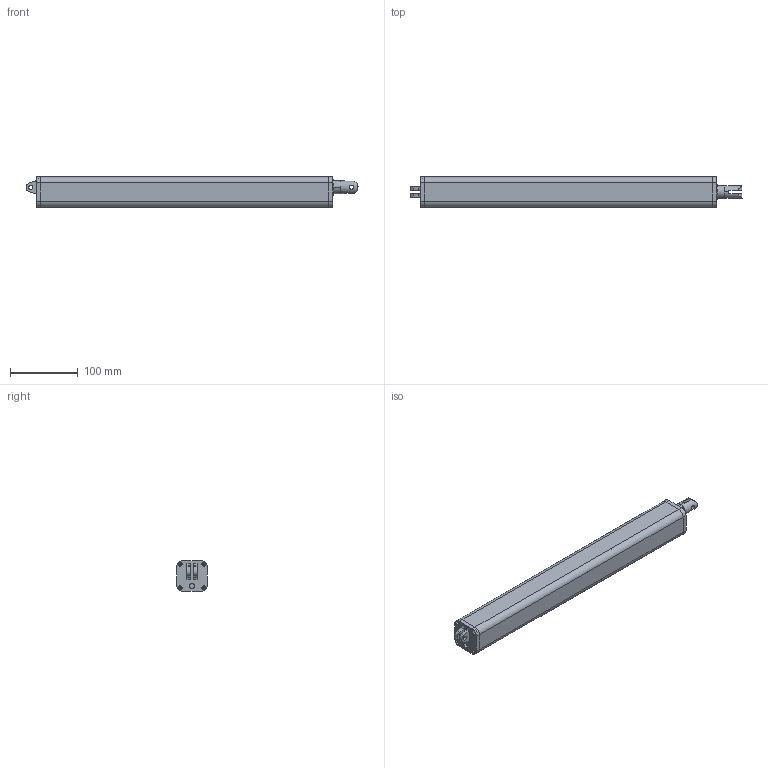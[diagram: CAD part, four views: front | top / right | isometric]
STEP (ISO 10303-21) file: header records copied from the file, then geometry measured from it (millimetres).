
FILE_DESCRIPTION((''),'2;1');
FILE_NAME('LAS4-S100_ASM','2007-07-11T',('amyliao'),(''),'PRO/ENGINEER BY PARAMETRIC TECHNOLOGY CORPORATION, 2003210','PRO/ENGINEER BY PARAMETRIC TECHNOLOGY CORPORATION, 2003210','');
FILE_SCHEMA(('CONFIG_CONTROL_DESIGN'));
Length unit declared in the file: millimetre
Products named in the file (7): OUT-TUBE; BACK-FIX; T1; T2; LAF-IN-TUBE; T3; LAS4-S100_ASM
Assembly tree (6 placements, depth 2):
  LAS4-S100_ASM
    OUT-TUBE
    BACK-FIX
    T1
    T2
    LAF-IN-TUBE
    T3
Bounding box: 488.84 x 45 x 45 mm (x, y, z)
Volume: 232768.6 mm3; surface area: 243232.6 mm2
Topology: 6 solids, 6 shells, 139 faces, 354 edges, 236 vertices
Faces by surface type: cylinder 83, plane 56
Entity records: 4641 total; most frequent: CARTESIAN_POINT 852, DIRECTION 814, ORIENTED_EDGE 708, EDGE_CURVE 354, AXIS2_PLACEMENT_3D 314, VERTEX_POINT 236, EDGE_LOOP 192, VECTOR 186
